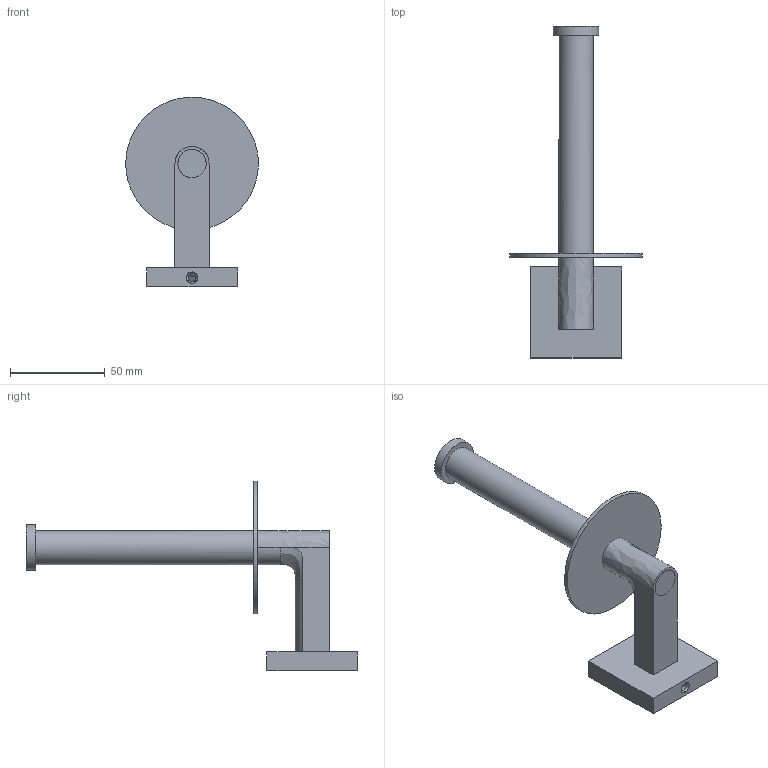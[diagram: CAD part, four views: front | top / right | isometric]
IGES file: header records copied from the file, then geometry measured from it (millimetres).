
Global section: file name: f4adf6b6-04d5-4352-95f9-6721cde7c302; native system: unknown; preprocessor: unknown; author: unknown; organization: unknown; date: 20200108.104732; units: millimetre
Bounding box: 69.95 x 175 x 100 mm (x, y, z)
Volume: 41947.4 mm3; surface area: 46098.5 mm2
Topology: 11 solids, 11 shells, 261 faces, 737 edges, 507 vertices
Faces by surface type: bspline 261
